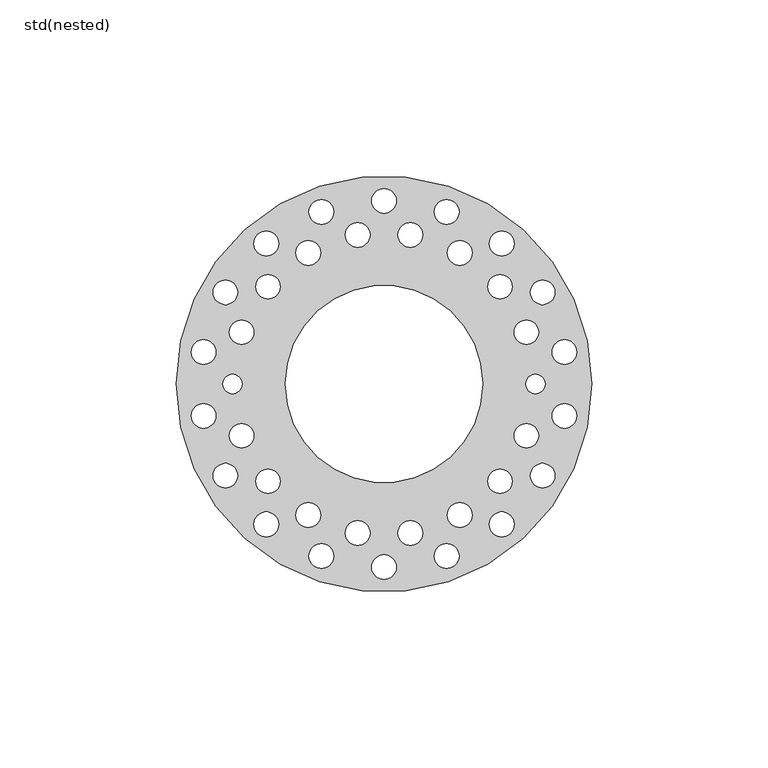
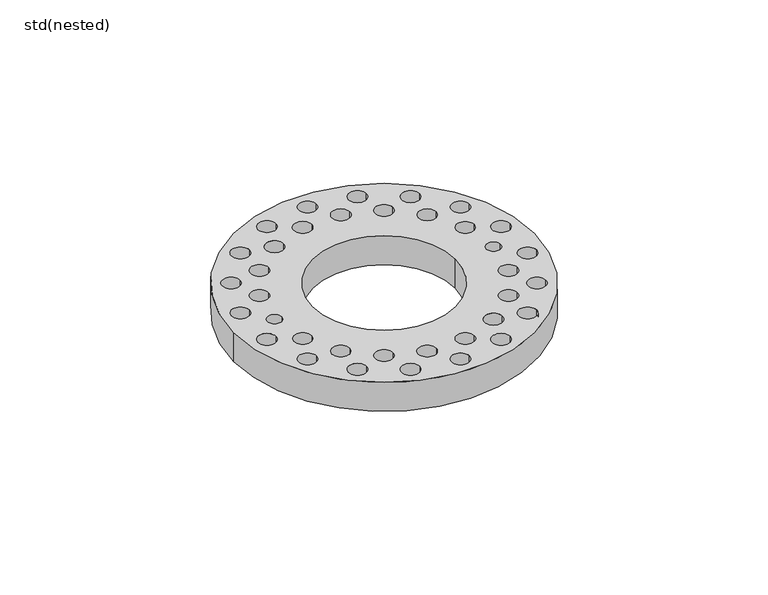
"""IFC4 building model written with IfcOpenShell, lengths in millimetres: sanitary terminal geometry, ZZZ_do not use_PF_ST_UN_strainer_ACO : std(nested)."""

import ifcopenshell
import ifcopenshell.guid

model = None  # the IFC model being written
_history = None  # IfcOwnerHistory: only IFC2X3 demands one
_inside = {}  # id of a spatial element -> (the spatial element, [elements in it])
_under = {}  # id of a project, library or spatial element -> (it, [spatial elements below it])
_declared = {}  # id of a project -> (the project, [libraries it declares])
_typed = {}  # id of a type object -> (the type object, [elements of that type])
_made_of = {}  # id of a material, layer set ... -> (it, [elements and type objects made of it])


def new_model(schema):
    """Start an empty IFC model of exactly this schema.

    Asked for "IFC4X3", IfcOpenShell would pick the latest addendum, in which some entities
    have other attributes; the version numbers below select the first issue.
    IFC2X3 requires an IfcOwnerHistory on every rooted entity: one is made here for all.
    """
    global model, _history
    if schema == "IFC4X3":
        model = ifcopenshell.file(schema_version=(4, 3, 0, 0))
    else:
        model = ifcopenshell.file(schema=schema)
    _inside.clear()
    _under.clear()
    _declared.clear()
    _typed.clear()
    _made_of.clear()
    _history = None
    if model.schema == "IFC2X3":
        org = make("IfcOrganization", Name="unknown")
        user = make(
            "IfcPersonAndOrganization",
            ThePerson=make("IfcPerson", FamilyName="unknown"),
            TheOrganization=org,
        )
        app = make(
            "IfcApplication",
            ApplicationDeveloper=org,
            Version="unknown",
            ApplicationFullName="unknown",
            ApplicationIdentifier="unknown",
        )
        _history = make(
            "IfcOwnerHistory",
            OwningUser=user,
            OwningApplication=app,
            ChangeAction="ADDED",
            CreationDate=0,
        )
    return model


def make(cls, **values):
    """One entity of the class cls with the attributes given. An attribute that is None is left unset."""
    return model.create_entity(
        cls, **{name: value for name, value in values.items() if value is not None}
    )


def rooted(cls, **values):
    """An entity with a GlobalId (a new one), such as an element, a storey or a relation."""
    return make(cls, GlobalId=ifcopenshell.guid.new(), OwnerHistory=_history, **values)


def si_unit(unit_type, name, prefix=None):
    """IfcSIUnit, for example si_unit("LENGTHUNIT", "METRE", prefix="MILLI")."""
    return make("IfcSIUnit", UnitType=unit_type, Prefix=prefix, Name=name)


def assignment(units):
    """IfcUnitAssignment: the units of a project."""
    return None if units is None else make("IfcUnitAssignment", Units=units)


def point(xyz):
    """IfcCartesianPoint."""
    return None if xyz is None else make("IfcCartesianPoint", Coordinates=xyz)


def direction(xyz):
    """IfcDirection."""
    return None if xyz is None else make("IfcDirection", DirectionRatios=xyz)


def frame(location, z_axis=None, x_axis=None):
    """IfcAxis2Placement3D, a coordinate frame: its origin and axes. An axis left out is left unset."""
    return make(
        "IfcAxis2Placement3D",
        Location=point(location),
        Axis=direction(z_axis),
        RefDirection=direction(x_axis),
    )


def frame_2d(location, x_axis=None):
    """IfcAxis2Placement2D, a coordinate frame in the plane: its origin and x axis."""
    return make(
        "IfcAxis2Placement2D", Location=point(location), RefDirection=direction(x_axis)
    )


def origin():
    """The frame at (0, 0, 0) with its axes left unset."""
    return frame((0.0, 0.0, 0.0))


def origin_2d():
    """The frame at (0, 0) in the plane with its x axis left unset."""
    return frame_2d((0.0, 0.0))


def place(relative_to, where):
    """IfcLocalPlacement: puts the frame where relative to a parent placement (None: the world)."""
    return make(
        "IfcLocalPlacement", PlacementRelTo=relative_to, RelativePlacement=where
    )


def context(
    kind, dimensions, precision=None, world=None, true_north=None, identifier=None
):
    """IfcGeometricRepresentationContext, for example the 3D "Model" context."""
    return make(
        "IfcGeometricRepresentationContext",
        ContextIdentifier=identifier,
        ContextType=kind,
        CoordinateSpaceDimension=dimensions,
        Precision=precision,
        WorldCoordinateSystem=world,
        TrueNorth=true_north,
    )


def project(units=None, contexts=None):
    """IfcProject with its units and contexts."""
    return rooted(
        "IfcProject",
        Name="project",
        RepresentationContexts=contexts,
        UnitsInContext=assignment(units),
    )


def spatial(cls, under=None, at=None, **own):
    """A site, building, storey or space (cls), placed at a placement, below another one or the project."""
    s = rooted(cls, ObjectPlacement=at, **own)
    if under is not None:
        _under.setdefault(under.id(), (under, []))[1].append(s)
    return s


def circle_curve(where, radius):
    """IfcCircle in the frame where."""
    return make("IfcCircle", Position=where, Radius=radius)


def trimmed(basis, trim1, trim2, sense, master):
    """IfcTrimmedCurve: the piece of a basis curve between two trims."""
    return make(
        "IfcTrimmedCurve",
        BasisCurve=basis,
        Trim1=trim1,
        Trim2=trim2,
        SenseAgreement=sense,
        MasterRepresentation=master,
    )


def segment(curve, same_sense, transition):
    """IfcCompositeCurveSegment."""
    return make(
        "IfcCompositeCurveSegment",
        Transition=transition,
        SameSense=same_sense,
        ParentCurve=curve,
    )


def composite_curve(segments, self_intersect=None):
    """IfcCompositeCurve: segments joined end to end."""
    return make("IfcCompositeCurve", Segments=segments, SelfIntersect=self_intersect)


def outline(outer, holes=None, kind="AREA"):
    """IfcArbitraryClosedProfileDef: a profile drawn as a closed curve; with holes, ...WithVoids."""
    if holes is None:
        return make("IfcArbitraryClosedProfileDef", ProfileType=kind, OuterCurve=outer)
    return make(
        "IfcArbitraryProfileDefWithVoids",
        ProfileType=kind,
        OuterCurve=outer,
        InnerCurves=holes,
    )


def extrude(swept, where, along, depth):
    """IfcExtrudedAreaSolid: the profile swept, set in the frame where, extruded along a direction by depth."""
    return make(
        "IfcExtrudedAreaSolid",
        SweptArea=swept,
        Position=where,
        ExtrudedDirection=direction(along),
        Depth=depth,
    )


def shape(context_of_items, identifier, shape_type, items):
    """IfcShapeRepresentation: the items that make up one representation, for example the "Body"."""
    return make(
        "IfcShapeRepresentation",
        ContextOfItems=context_of_items,
        RepresentationIdentifier=identifier,
        RepresentationType=shape_type,
        Items=items,
    )


def source(mapping_origin, context_of_items, identifier, shape_type, items):
    """IfcRepresentationMap: a shape defined once, which mapped items show again and again."""
    return make(
        "IfcRepresentationMap",
        MappingOrigin=mapping_origin,
        MappedRepresentation=shape(context_of_items, identifier, shape_type, items),
    )


def transform(
    local_origin,
    x_axis=None,
    y_axis=None,
    z_axis=None,
    scale=None,
    scale2=None,
    scale3=None,
    uniform=True,
):
    """IfcCartesianTransformationOperator3D, or its non-uniform kind. x_axis, y_axis, z_axis: its Axis1, 2, 3."""
    if uniform:
        return make(
            "IfcCartesianTransformationOperator3D",
            Axis1=direction(x_axis),
            Axis2=direction(y_axis),
            LocalOrigin=point(local_origin),
            Scale=scale,
            Axis3=direction(z_axis),
        )
    return make(
        "IfcCartesianTransformationOperator3DnonUniform",
        Axis1=direction(x_axis),
        Axis2=direction(y_axis),
        LocalOrigin=point(local_origin),
        Scale=scale,
        Axis3=direction(z_axis),
        Scale2=scale2,
        Scale3=scale3,
    )


def mapped(mapping_source, mapping_target):
    """IfcMappedItem: shows the shape of a source again, moved by a transform."""
    return make(
        "IfcMappedItem", MappingSource=mapping_source, MappingTarget=mapping_target
    )


def made_of(thing, what):
    """Note that an element or type object is made of a material, layer set ...; save() writes the relation."""
    if what is not None:
        _made_of.setdefault(what.id(), (what, []))[1].append(thing)
    return thing


def element(
    cls,
    number,
    at=None,
    inside=None,
    cuts=None,
    type_object=None,
    material=None,
    context=None,
    identifier="Body",
    shape_type=None,
    held_by="IfcProductDefinitionShape",
    body=None,
    shapes=None,
    **own,
):
    """One element of the class cls, such as IfcWall. Its Tag is "e" and its number.

    at: its placement. inside: the storey or other place that contains it. cuts: it is an
    opening in that element (IfcRelVoidsElement). A single representation is given by context,
    identifier, shape_type and body (its items); several are given by shapes. held_by: the class
    of the entity that holds the representations. save() writes the other relations.
    """
    e = rooted(cls, Tag="e%d" % number, ObjectPlacement=at, **own)
    if body is not None:
        shapes = [shape(context, identifier, shape_type, body)]
    if shapes is not None:
        e.Representation = make(held_by, Representations=shapes)
    if inside is not None:
        _inside.setdefault(inside.id(), (inside, []))[1].append(e)
    if cuts is not None:
        rooted(
            "IfcRelVoidsElement", RelatingBuildingElement=cuts, RelatedOpeningElement=e
        )
    if type_object is not None:
        _typed.setdefault(type_object.id(), (type_object, []))[1].append(e)
    return made_of(e, material)


def aggregate(whole, parts):
    """IfcRelAggregates: a whole, such as a stair, and the parts it consists of."""
    return rooted("IfcRelAggregates", RelatingObject=whole, RelatedObjects=parts)


def save(model, path):
    """Write the relations noted so far, then the file.

    IfcRelAggregates (storeys below a building ...), IfcRelContainedInSpatialStructure (elements
    in a storey), IfcRelDefinesByType, IfcRelAssociatesMaterial and IfcRelDeclares: one each for
    every whole, place, type object, material and project.
    """
    for whole, parts in _under.values():
        aggregate(whole, parts)
    for where, things in _inside.values():
        rooted(
            "IfcRelContainedInSpatialStructure",
            RelatedElements=things,
            RelatingStructure=where,
        )
    for kind, things in _typed.values():
        rooted("IfcRelDefinesByType", RelatedObjects=things, RelatingType=kind)
    for what, things in _made_of.values():
        rooted("IfcRelAssociatesMaterial", RelatedObjects=things, RelatingMaterial=what)
    for by, libraries in _declared.values():
        rooted("IfcRelDeclares", RelatingContext=by, RelatedDefinitions=libraries)
    model.write(path)


def std_nested_b00d16d5(model_context):
    return source(origin(), model_context, "Body", "SweptSolid", [
        extrude(outline(composite_curve([segment(trimmed(circle_curve(origin_2d(), 59.0), [point((-59.0, 0.0))], [point((59.0, 0.0))], False, "CARTESIAN"), True, "CONTINUOUS"), segment(trimmed(circle_curve(origin_2d(), 59.0), [point((59.0, 0.0))], [point((-59.0, 0.0))], False, "CARTESIAN"), True, "CONTINUOUS")], self_intersect=False), holes=[composite_curve([segment(trimmed(circle_curve(origin_2d(), 28.0), [point((-28.0, 0.0))], [point((28.0, 0.0))], True, "CARTESIAN"), True, "CONTINUOUS"), segment(trimmed(circle_curve(origin_2d(), 28.0), [point((28.0, 0.0))], [point((-28.0, 0.0))], True, "CARTESIAN"), True, "CONTINUOUS")], self_intersect=False), composite_curve([segment(trimmed(circle_curve(frame_2d((43.0, 0.0)), 2.75), [point((40.25, 0.0))], [point((45.75, 0.0))], True, "CARTESIAN"), True, "CONTINUOUS"), segment(trimmed(circle_curve(frame_2d((43.0, 0.0)), 2.75), [point((45.75, 0.0))], [point((40.25, 0.0))], True, "CARTESIAN"), True, "CONTINUOUS")], self_intersect=False), composite_curve([segment(trimmed(circle_curve(frame_2d((0.0, 52.0)), 3.5), [point((-3.5, 52.0))], [point((3.5, 52.0))], True, "CARTESIAN"), True, "CONTINUOUS"), segment(trimmed(circle_curve(frame_2d((0.0, 52.0)), 3.5), [point((3.5, 52.0))], [point((-3.5, 52.0))], True, "CARTESIAN"), True, "CONTINUOUS")], self_intersect=False), composite_curve([segment(trimmed(circle_curve(frame_2d((40.4067827, 14.7068662)), 3.4655708), [point((36.9412119, 14.7068662))], [point((43.8723535, 14.7068662))], True, "CARTESIAN"), True, "CONTINUOUS"), segment(trimmed(circle_curve(frame_2d((40.4067827, 14.7068662)), 3.4655708), [point((43.8723535, 14.7068662))], [point((36.9412119, 14.7068662))], True, "CARTESIAN"), True, "CONTINUOUS")], self_intersect=False), composite_curve([segment(trimmed(circle_curve(frame_2d((32.9399111, 27.6398672)), 3.4514303), [point((29.4884808, 27.6398672))], [point((36.3913413, 27.6398672))], True, "CARTESIAN"), True, "CONTINUOUS"), segment(trimmed(circle_curve(frame_2d((32.9399111, 27.6398672)), 3.4514303), [point((36.3913413, 27.6398672))], [point((29.4884808, 27.6398672))], True, "CARTESIAN"), True, "CONTINUOUS")], self_intersect=False), composite_curve([segment(trimmed(circle_curve(frame_2d((21.5, 37.2390924)), 3.5092867), [point((17.9907133, 37.2390924))], [point((25.0092867, 37.2390924))], True, "CARTESIAN"), True, "CONTINUOUS"), segment(trimmed(circle_curve(frame_2d((21.5, 37.2390924)), 3.5092867), [point((25.0092867, 37.2390924))], [point((17.9907133, 37.2390924))], True, "CARTESIAN"), True, "CONTINUOUS")], self_intersect=False), composite_curve([segment(trimmed(circle_curve(frame_2d((7.4668716, 42.3467334)), 3.5072644), [point((3.9596072, 42.3467334))], [point((10.974136, 42.3467334))], True, "CARTESIAN"), True, "CONTINUOUS"), segment(trimmed(circle_curve(frame_2d((7.4668716, 42.3467334)), 3.5072644), [point((10.974136, 42.3467334))], [point((3.9596072, 42.3467334))], True, "CARTESIAN"), True, "CONTINUOUS")], self_intersect=False), composite_curve([segment(trimmed(circle_curve(frame_2d((51.2100032, 9.0297052)), 3.5036678), [point((47.7063354, 9.0297052))], [point((54.7136709, 9.0297052))], True, "CARTESIAN"), True, "CONTINUOUS"), segment(trimmed(circle_curve(frame_2d((51.2100032, 9.0297052)), 3.5036678), [point((54.7136709, 9.0297052))], [point((47.7063354, 9.0297052))], True, "CARTESIAN"), True, "CONTINUOUS")], self_intersect=False), composite_curve([segment(trimmed(circle_curve(frame_2d((45.033321, 26.0)), 3.4583604), [point((41.5749606, 26.0))], [point((48.4916814, 26.0))], True, "CARTESIAN"), True, "CONTINUOUS"), segment(trimmed(circle_curve(frame_2d((45.033321, 26.0)), 3.4583604), [point((48.4916814, 26.0))], [point((41.5749606, 26.0))], True, "CARTESIAN"), True, "CONTINUOUS")], self_intersect=False), composite_curve([segment(trimmed(circle_curve(frame_2d((33.4249557, 39.834311)), 3.5206979), [point((29.9042578, 39.834311))], [point((36.9456537, 39.834311))], True, "CARTESIAN"), True, "CONTINUOUS"), segment(trimmed(circle_curve(frame_2d((33.4249557, 39.834311)), 3.5206979), [point((36.9456537, 39.834311))], [point((29.9042578, 39.834311))], True, "CARTESIAN"), True, "CONTINUOUS")], self_intersect=False), composite_curve([segment(trimmed(circle_curve(frame_2d((17.7850475, 48.8640163)), 3.5218212), [point((14.2632263, 48.8640163))], [point((21.3068686, 48.8640163))], True, "CARTESIAN"), True, "CONTINUOUS"), segment(trimmed(circle_curve(frame_2d((17.7850475, 48.8640163)), 3.5218212), [point((21.3068686, 48.8640163))], [point((14.2632263, 48.8640163))], True, "CARTESIAN"), True, "CONTINUOUS")], self_intersect=False), composite_curve([segment(trimmed(circle_curve(frame_2d((-43.0, 0.0)), 2.75), [point((-40.25, 0.0))], [point((-45.75, 0.0))], True, "CARTESIAN"), True, "CONTINUOUS"), segment(trimmed(circle_curve(frame_2d((-43.0, 0.0)), 2.75), [point((-45.75, 0.0))], [point((-40.25, 0.0))], True, "CARTESIAN"), True, "CONTINUOUS")], self_intersect=False), composite_curve([segment(trimmed(circle_curve(frame_2d((-40.4067827, 14.7068662)), 3.4655708), [point((-36.9412119, 14.7068662))], [point((-43.8723535, 14.7068662))], True, "CARTESIAN"), True, "CONTINUOUS"), segment(trimmed(circle_curve(frame_2d((-40.4067827, 14.7068662)), 3.4655708), [point((-43.8723535, 14.7068662))], [point((-36.9412119, 14.7068662))], True, "CARTESIAN"), True, "CONTINUOUS")], self_intersect=False), composite_curve([segment(trimmed(circle_curve(frame_2d((-32.9399111, 27.6398672)), 3.4514303), [point((-29.4884808, 27.6398672))], [point((-36.3913413, 27.6398672))], True, "CARTESIAN"), True, "CONTINUOUS"), segment(trimmed(circle_curve(frame_2d((-32.9399111, 27.6398672)), 3.4514303), [point((-36.3913413, 27.6398672))], [point((-29.4884808, 27.6398672))], True, "CARTESIAN"), True, "CONTINUOUS")], self_intersect=False), composite_curve([segment(trimmed(circle_curve(frame_2d((-21.5, 37.2390924)), 3.5092867), [point((-17.9907133, 37.2390924))], [point((-25.0092867, 37.2390924))], True, "CARTESIAN"), True, "CONTINUOUS"), segment(trimmed(circle_curve(frame_2d((-21.5, 37.2390924)), 3.5092867), [point((-25.0092867, 37.2390924))], [point((-17.9907133, 37.2390924))], True, "CARTESIAN"), True, "CONTINUOUS")], self_intersect=False), composite_curve([segment(trimmed(circle_curve(frame_2d((-7.4668716, 42.3467334)), 3.5072644), [point((-3.9596072, 42.3467334))], [point((-10.974136, 42.3467334))], True, "CARTESIAN"), True, "CONTINUOUS"), segment(trimmed(circle_curve(frame_2d((-7.4668716, 42.3467334)), 3.5072644), [point((-10.974136, 42.3467334))], [point((-3.9596072, 42.3467334))], True, "CARTESIAN"), True, "CONTINUOUS")], self_intersect=False), composite_curve([segment(trimmed(circle_curve(frame_2d((-51.2100032, 9.0297052)), 3.5036678), [point((-47.7063354, 9.0297052))], [point((-54.7136709, 9.0297052))], True, "CARTESIAN"), True, "CONTINUOUS"), segment(trimmed(circle_curve(frame_2d((-51.2100032, 9.0297052)), 3.5036678), [point((-54.7136709, 9.0297052))], [point((-47.7063354, 9.0297052))], True, "CARTESIAN"), True, "CONTINUOUS")], self_intersect=False), composite_curve([segment(trimmed(circle_curve(frame_2d((-45.033321, 26.0)), 3.4583604), [point((-41.5749606, 26.0))], [point((-48.4916814, 26.0))], True, "CARTESIAN"), True, "CONTINUOUS"), segment(trimmed(circle_curve(frame_2d((-45.033321, 26.0)), 3.4583604), [point((-48.4916814, 26.0))], [point((-41.5749606, 26.0))], True, "CARTESIAN"), True, "CONTINUOUS")], self_intersect=False), composite_curve([segment(trimmed(circle_curve(frame_2d((-33.4249557, 39.834311)), 3.5206979), [point((-29.9042578, 39.834311))], [point((-36.9456537, 39.834311))], True, "CARTESIAN"), True, "CONTINUOUS"), segment(trimmed(circle_curve(frame_2d((-33.4249557, 39.834311)), 3.5206979), [point((-36.9456537, 39.834311))], [point((-29.9042578, 39.834311))], True, "CARTESIAN"), True, "CONTINUOUS")], self_intersect=False), composite_curve([segment(trimmed(circle_curve(frame_2d((-17.7850475, 48.8640163)), 3.5218212), [point((-14.2632263, 48.8640163))], [point((-21.3068686, 48.8640163))], True, "CARTESIAN"), True, "CONTINUOUS"), segment(trimmed(circle_curve(frame_2d((-17.7850475, 48.8640163)), 3.5218212), [point((-21.3068686, 48.8640163))], [point((-14.2632263, 48.8640163))], True, "CARTESIAN"), True, "CONTINUOUS")], self_intersect=False), composite_curve([segment(trimmed(circle_curve(frame_2d((0.0, -52.0)), 3.5), [point((-3.5, -52.0))], [point((3.5, -52.0))], True, "CARTESIAN"), True, "CONTINUOUS"), segment(trimmed(circle_curve(frame_2d((0.0, -52.0)), 3.5), [point((3.5, -52.0))], [point((-3.5, -52.0))], True, "CARTESIAN"), True, "CONTINUOUS")], self_intersect=False), composite_curve([segment(trimmed(circle_curve(frame_2d((40.4067827, -14.7068662)), 3.4655708), [point((36.9412119, -14.7068662))], [point((43.8723535, -14.7068662))], True, "CARTESIAN"), True, "CONTINUOUS"), segment(trimmed(circle_curve(frame_2d((40.4067827, -14.7068662)), 3.4655708), [point((43.8723535, -14.7068662))], [point((36.9412119, -14.7068662))], True, "CARTESIAN"), True, "CONTINUOUS")], self_intersect=False), composite_curve([segment(trimmed(circle_curve(frame_2d((32.9399111, -27.6398672)), 3.4514303), [point((29.4884808, -27.6398672))], [point((36.3913413, -27.6398672))], True, "CARTESIAN"), True, "CONTINUOUS"), segment(trimmed(circle_curve(frame_2d((32.9399111, -27.6398672)), 3.4514303), [point((36.3913413, -27.6398672))], [point((29.4884808, -27.6398672))], True, "CARTESIAN"), True, "CONTINUOUS")], self_intersect=False), composite_curve([segment(trimmed(circle_curve(frame_2d((21.5, -37.2390924)), 3.5092867), [point((17.9907133, -37.2390924))], [point((25.0092867, -37.2390924))], True, "CARTESIAN"), True, "CONTINUOUS"), segment(trimmed(circle_curve(frame_2d((21.5, -37.2390924)), 3.5092867), [point((25.0092867, -37.2390924))], [point((17.9907133, -37.2390924))], True, "CARTESIAN"), True, "CONTINUOUS")], self_intersect=False), composite_curve([segment(trimmed(circle_curve(frame_2d((7.4668716, -42.3467334)), 3.5072644), [point((3.9596072, -42.3467334))], [point((10.974136, -42.3467334))], True, "CARTESIAN"), True, "CONTINUOUS"), segment(trimmed(circle_curve(frame_2d((7.4668716, -42.3467334)), 3.5072644), [point((10.974136, -42.3467334))], [point((3.9596072, -42.3467334))], True, "CARTESIAN"), True, "CONTINUOUS")], self_intersect=False), composite_curve([segment(trimmed(circle_curve(frame_2d((51.2100032, -9.0297052)), 3.5036678), [point((47.7063354, -9.0297052))], [point((54.7136709, -9.0297052))], True, "CARTESIAN"), True, "CONTINUOUS"), segment(trimmed(circle_curve(frame_2d((51.2100032, -9.0297052)), 3.5036678), [point((54.7136709, -9.0297052))], [point((47.7063354, -9.0297052))], True, "CARTESIAN"), True, "CONTINUOUS")], self_intersect=False), composite_curve([segment(trimmed(circle_curve(frame_2d((45.033321, -26.0)), 3.4583604), [point((41.5749606, -26.0))], [point((48.4916814, -26.0))], True, "CARTESIAN"), True, "CONTINUOUS"), segment(trimmed(circle_curve(frame_2d((45.033321, -26.0)), 3.4583604), [point((48.4916814, -26.0))], [point((41.5749606, -26.0))], True, "CARTESIAN"), True, "CONTINUOUS")], self_intersect=False), composite_curve([segment(trimmed(circle_curve(frame_2d((33.4249557, -39.834311)), 3.5206979), [point((29.9042578, -39.834311))], [point((36.9456537, -39.834311))], True, "CARTESIAN"), True, "CONTINUOUS"), segment(trimmed(circle_curve(frame_2d((33.4249557, -39.834311)), 3.5206979), [point((36.9456537, -39.834311))], [point((29.9042578, -39.834311))], True, "CARTESIAN"), True, "CONTINUOUS")], self_intersect=False), composite_curve([segment(trimmed(circle_curve(frame_2d((17.7850475, -48.8640163)), 3.5218212), [point((14.2632263, -48.8640163))], [point((21.3068686, -48.8640163))], True, "CARTESIAN"), True, "CONTINUOUS"), segment(trimmed(circle_curve(frame_2d((17.7850475, -48.8640163)), 3.5218212), [point((21.3068686, -48.8640163))], [point((14.2632263, -48.8640163))], True, "CARTESIAN"), True, "CONTINUOUS")], self_intersect=False), composite_curve([segment(trimmed(circle_curve(frame_2d((-40.4067827, -14.7068662)), 3.4655708), [point((-36.9412119, -14.7068662))], [point((-43.8723535, -14.7068662))], True, "CARTESIAN"), True, "CONTINUOUS"), segment(trimmed(circle_curve(frame_2d((-40.4067827, -14.7068662)), 3.4655708), [point((-43.8723535, -14.7068662))], [point((-36.9412119, -14.7068662))], True, "CARTESIAN"), True, "CONTINUOUS")], self_intersect=False), composite_curve([segment(trimmed(circle_curve(frame_2d((-32.9399111, -27.6398672)), 3.4514303), [point((-29.4884808, -27.6398672))], [point((-36.3913413, -27.6398672))], True, "CARTESIAN"), True, "CONTINUOUS"), segment(trimmed(circle_curve(frame_2d((-32.9399111, -27.6398672)), 3.4514303), [point((-36.3913413, -27.6398672))], [point((-29.4884808, -27.6398672))], True, "CARTESIAN"), True, "CONTINUOUS")], self_intersect=False), composite_curve([segment(trimmed(circle_curve(frame_2d((-21.5, -37.2390924)), 3.5092867), [point((-17.9907133, -37.2390924))], [point((-25.0092867, -37.2390924))], True, "CARTESIAN"), True, "CONTINUOUS"), segment(trimmed(circle_curve(frame_2d((-21.5, -37.2390924)), 3.5092867), [point((-25.0092867, -37.2390924))], [point((-17.9907133, -37.2390924))], True, "CARTESIAN"), True, "CONTINUOUS")], self_intersect=False), composite_curve([segment(trimmed(circle_curve(frame_2d((-7.4668716, -42.3467334)), 3.5072644), [point((-3.9596072, -42.3467334))], [point((-10.974136, -42.3467334))], True, "CARTESIAN"), True, "CONTINUOUS"), segment(trimmed(circle_curve(frame_2d((-7.4668716, -42.3467334)), 3.5072644), [point((-10.974136, -42.3467334))], [point((-3.9596072, -42.3467334))], True, "CARTESIAN"), True, "CONTINUOUS")], self_intersect=False), composite_curve([segment(trimmed(circle_curve(frame_2d((-51.2100032, -9.0297052)), 3.5036678), [point((-47.7063354, -9.0297052))], [point((-54.7136709, -9.0297052))], True, "CARTESIAN"), True, "CONTINUOUS"), segment(trimmed(circle_curve(frame_2d((-51.2100032, -9.0297052)), 3.5036678), [point((-54.7136709, -9.0297052))], [point((-47.7063354, -9.0297052))], True, "CARTESIAN"), True, "CONTINUOUS")], self_intersect=False), composite_curve([segment(trimmed(circle_curve(frame_2d((-45.033321, -26.0)), 3.4583604), [point((-41.5749606, -26.0))], [point((-48.4916814, -26.0))], True, "CARTESIAN"), True, "CONTINUOUS"), segment(trimmed(circle_curve(frame_2d((-45.033321, -26.0)), 3.4583604), [point((-48.4916814, -26.0))], [point((-41.5749606, -26.0))], True, "CARTESIAN"), True, "CONTINUOUS")], self_intersect=False), composite_curve([segment(trimmed(circle_curve(frame_2d((-33.4249557, -39.834311)), 3.5206979), [point((-29.9042578, -39.834311))], [point((-36.9456537, -39.834311))], True, "CARTESIAN"), True, "CONTINUOUS"), segment(trimmed(circle_curve(frame_2d((-33.4249557, -39.834311)), 3.5206979), [point((-36.9456537, -39.834311))], [point((-29.9042578, -39.834311))], True, "CARTESIAN"), True, "CONTINUOUS")], self_intersect=False), composite_curve([segment(trimmed(circle_curve(frame_2d((-17.7850475, -48.8640163)), 3.5218212), [point((-14.2632263, -48.8640163))], [point((-21.3068686, -48.8640163))], True, "CARTESIAN"), True, "CONTINUOUS"), segment(trimmed(circle_curve(frame_2d((-17.7850475, -48.8640163)), 3.5218212), [point((-21.3068686, -48.8640163))], [point((-14.2632263, -48.8640163))], True, "CARTESIAN"), True, "CONTINUOUS")], self_intersect=False)]), frame((0.0, 0.0, -6.5), z_axis=(0.0, 0.0, 1.0), x_axis=(1.0, 0.0, 0.0)), (0.0, 0.0, 1.0), 12.0),
    ])


if __name__ == "__main__":
    model = new_model("IFC4")
    model_context = context("Model", 3, world=origin())
    ifc_project = project(units=[si_unit("LENGTHUNIT", "METRE", prefix="MILLI")], contexts=[model_context])
    site = spatial("IfcSite", under=ifc_project)
    building = spatial("IfcBuilding", under=site)
    placement = place(None, origin())
    std_nested_shape = std_nested_b00d16d5(model_context)
    element("IfcSanitaryTerminal", 1, ObjectType="ZZZ_do not use_PF_ST_UN_strainer_ACO : std(nested)", at=placement, inside=building, context=model_context, shape_type="MappedRepresentation", body=[
        mapped(std_nested_shape, transform((0.0, 0.0, 0.0), x_axis=(1.0, 0.0, 0.0), y_axis=(0.0, 1.0, 0.0), z_axis=(0.0, 0.0, 1.0))),
    ])
    save(model, "model.ifc")
